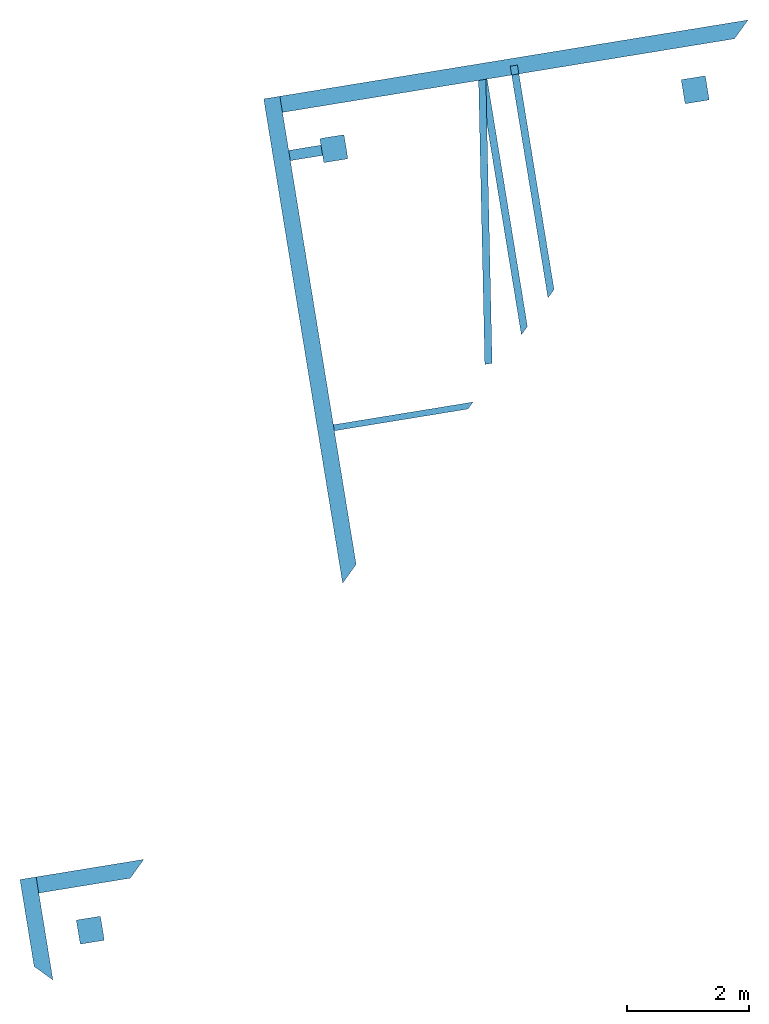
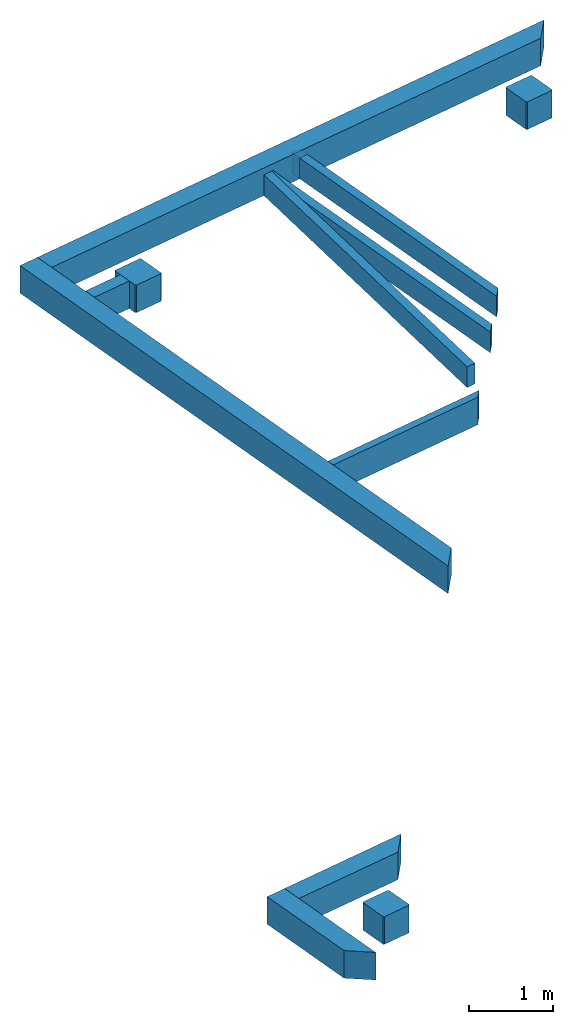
# One storey: 10 walls, 4 columns.
"""IFC2X3 building model written with IfcOpenShell, lengths in millimetres."""

from ifc_helpers import new_model, entity, si_unit, converted_unit, derived_unit, direction, frame, origin, origin_with_axes, place, context, subcontext, project, spatial, polyline, outline, extrude, faceted_brep, material, layer, layer_set, layer_usage, type_object, element, save


model = new_model("IFC2X3")

# Units and contexts
model_context = context("Model", 3, precision=0.01, world=origin(), true_north=direction((6.12323399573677e-17, 1.0)))
plan_context = context("Plan", 3, precision=1e-05, world=origin_with_axes())
body_context = subcontext(model_context, "Body", "Model", "MODEL_VIEW")
ifc_project = project(units=[converted_unit("PLANEANGLEUNIT", "DEGREE", entity("IfcPositiveLengthMeasure", 0.0174532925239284), si_unit("PLANEANGLEUNIT", "RADIAN"), dimensions=[0, 0, 0, 0, 0, 0, 0]), si_unit("AREAUNIT", "SQUARE_METRE"), si_unit("LENGTHUNIT", "METRE", prefix="MILLI"), si_unit("MASSUNIT", "GRAM", prefix="KILO"), si_unit("POWERUNIT", "WATT"), si_unit("PRESSUREUNIT", "PASCAL", prefix="KILO"), si_unit("FORCEUNIT", "NEWTON", prefix="KILO"), si_unit("ELECTRICVOLTAGEUNIT", "VOLT"), si_unit("ELECTRICCURRENTUNIT", "AMPERE"), si_unit("THERMODYNAMICTEMPERATUREUNIT", "DEGREE_CELSIUS"), si_unit("TIMEUNIT", "SECOND"), si_unit("VOLUMEUNIT", "CUBIC_METRE"), derived_unit("LINEARVELOCITYUNIT", [(si_unit("LENGTHUNIT", "METRE"), 1), (si_unit("TIMEUNIT", "SECOND"), -1)]), derived_unit("VOLUMETRICFLOWRATEUNIT", [(si_unit("VOLUMEUNIT", "CUBIC_METRE"), 1), (si_unit("TIMEUNIT", "SECOND"), -1)]), derived_unit("THERMALTRANSMITTANCEUNIT", [(si_unit("POWERUNIT", "WATT"), 1), (si_unit("THERMODYNAMICTEMPERATUREUNIT", "KELVIN"), -1), (si_unit("AREAUNIT", "SQUARE_METRE"), -1)]), derived_unit("SOUNDPRESSUREUNIT", [(si_unit("PRESSUREUNIT", "PASCAL"), 1)])], contexts=[model_context, plan_context])

# Site, building, storey
site_placement = place(None, frame((-305029.896016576, -232111.759730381, 0.0), z_axis=(0.0, 0.0, 1.0), x_axis=(-0.160806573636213, 0.986985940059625, 0.0)))
site = spatial("IfcSite", under=ifc_project, at=site_placement, Name="Default", CompositionType="ELEMENT")
building_placement = place(site_placement, frame((0.0, 0.0, 0.0), z_axis=(0.0, 0.0, 1.0), x_axis=(1.0, -2.77555756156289e-17, 0.0)))
building = spatial("IfcBuilding", under=site, at=building_placement, Name="br001-a-200-1-0001", CompositionType="ELEMENT")
storey_placement = place(building_placement, frame((0.0, 0.0, 59000.0), z_axis=(0.0, 0.0, 1.0), x_axis=(1.0, -2.77555756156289e-17, 0.0)))
storey = spatial("IfcBuildingStorey", under=building, at=storey_placement, Name="H03-Nivå G-5m", CompositionType="ELEMENT", Elevation=59000.0)

# Columns
ifc_material_1 = material(Name="_NSW Betong")
column_type_1 = type_object("IfcColumnType", Name="NSW Søyle - Betong rektangulær:400 x 400 mm", PredefinedType="COLUMN", material=ifc_material_1)
column_1_placement = place(storey_placement, frame((0.0, 0.0, -59000.0), z_axis=(0.0, 0.0, 1.0), x_axis=(1.0, -2.77555756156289e-17, 0.0)))
element("IfcColumn", 1, at=column_1_placement, inside=storey, type_object=column_type_1, Name="NSW Søyle - Betong rektangulær:400 x 400 mm", ObjectType="NSW Søyle - Betong rektangulær:400 x 400 mm", context=body_context, shape_type="Brep", body=[
    faceted_brep([(1184488.59858442, -692966.378367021, 59400.0), (1184868.59858442, -692966.378367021, 59400.0), (1184868.59858442, -692966.378367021, 59000.0), (1184488.59858442, -692966.378367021, 59000.0), (1184878.59858442, -692956.378367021, 59400.0), (1184878.59858442, -692956.378367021, 59000.0), (1184878.59858442, -692576.378367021, 59400.0), (1184878.59858442, -692576.378367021, 59000.0), (1184868.59858442, -692566.378367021, 59400.0), (1184868.59858442, -692566.378367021, 59000.0), (1184488.59858442, -692566.378367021, 59400.0), (1184488.59858442, -692566.378367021, 59000.0), (1184478.59858442, -692576.378367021, 59400.0), (1184478.59858442, -692576.378367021, 59000.0), (1184478.59858442, -692956.378367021, 59400.0), (1184478.59858442, -692956.378367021, 59000.0)], [[[0, 1, 2, 3]], [[1, 4, 5, 2]], [[4, 6, 7, 5]], [[6, 8, 9, 7]], [[8, 10, 11, 9]], [[10, 12, 13, 11]], [[12, 14, 15, 13]], [[14, 0, 3, 15]], [[3, 2, 5, 7, 9, 11, 13, 15]], [[14, 12, 10, 8, 6, 4, 1, 0]]], orient=[[False], [False], [False], [False], [False], [False], [False], [False], [False], [False]]),
])
column_type_2 = type_object("IfcColumnType", Name="NSW Søyle - Betong rektangulær:400 x 400 mm", PredefinedType="COLUMN", material=ifc_material_1)
column_2_placement = place(storey_placement, frame((0.0, 0.0, -59000.0), z_axis=(0.0, 0.0, 1.0), x_axis=(1.0, -2.77555756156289e-17, 0.0)))
element("IfcColumn", 2, at=column_2_placement, inside=storey, type_object=column_type_2, Name="NSW Søyle - Betong rektangulær:400 x 400 mm", ObjectType="NSW Søyle - Betong rektangulær:400 x 400 mm", context=body_context, shape_type="Brep", body=[
    faceted_brep([(1184488.59858442, -686966.378367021, 59400.0), (1184868.59858442, -686966.378367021, 59400.0), (1184868.59858442, -686966.378367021, 59000.0), (1184488.59858442, -686966.378367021, 59000.0), (1184878.59858442, -686956.378367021, 59400.0), (1184878.59858442, -686956.378367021, 59000.0), (1184878.59858442, -686576.378367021, 59400.0), (1184878.59858442, -686576.378367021, 59000.0), (1184868.59858442, -686566.378367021, 59400.0), (1184868.59858442, -686566.378367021, 59000.0), (1184488.59858442, -686566.378367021, 59400.0), (1184488.59858442, -686566.378367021, 59000.0), (1184478.59858442, -686576.378367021, 59400.0), (1184478.59858442, -686576.378367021, 59000.0), (1184478.59858442, -686956.378367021, 59400.0), (1184478.59858442, -686956.378367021, 59000.0)], [[[0, 1, 2, 3]], [[1, 4, 5, 2]], [[4, 6, 7, 5]], [[6, 8, 9, 7]], [[8, 10, 11, 9]], [[10, 12, 13, 11]], [[12, 14, 15, 13]], [[14, 0, 3, 15]], [[3, 2, 5, 7, 9, 11, 13, 15]], [[14, 12, 10, 8, 6, 4, 1, 0]]], orient=[[False], [False], [False], [False], [False], [False], [False], [False], [False], [False]]),
])
column_type_3 = type_object("IfcColumnType", Name="NSW Søyle - Betong rektangulær:400 x 400 mm", PredefinedType="COLUMN", material=ifc_material_1)
column_3_placement = place(storey_placement, frame((0.0, 0.0, -59000.0), z_axis=(0.0, 0.0, 1.0), x_axis=(1.0, -2.77555756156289e-17, 0.0)))
element("IfcColumn", 3, at=column_3_placement, inside=storey, type_object=column_type_3, Name="NSW Søyle - Betong rektangulær:400 x 400 mm", ObjectType="NSW Søyle - Betong rektangulær:400 x 400 mm", context=body_context, shape_type="Brep", body=[
    faceted_brep([(1172488.59858442, -680966.378367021, 59400.0), (1172868.59858442, -680966.378367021, 59400.0), (1172868.59858442, -680966.378367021, 59000.0), (1172488.59858442, -680966.378367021, 59000.0), (1172878.59858442, -680956.378367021, 59400.0), (1172878.59858442, -680956.378367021, 59000.0), (1172878.59858442, -680576.378367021, 59400.0), (1172878.59858442, -680576.378367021, 59000.0), (1172868.59858442, -680566.378367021, 59400.0), (1172868.59858442, -680566.378367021, 59000.0), (1172488.59858442, -680566.378367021, 59400.0), (1172488.59858442, -680566.378367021, 59000.0), (1172478.59858442, -680576.378367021, 59400.0), (1172478.59858442, -680576.378367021, 59000.0), (1172478.59858442, -680956.378367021, 59400.0), (1172478.59858442, -680956.378367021, 59000.0)], [[[0, 1, 2, 3]], [[1, 4, 5, 2]], [[4, 6, 7, 5]], [[6, 8, 9, 7]], [[8, 10, 11, 9]], [[10, 12, 13, 11]], [[12, 14, 15, 13]], [[14, 0, 3, 15]], [[3, 2, 5, 7, 9, 11, 13, 15]], [[14, 12, 10, 8, 6, 4, 1, 0]]], orient=[[False], [False], [False], [False], [False], [False], [False], [False], [False], [False]]),
])
column_type_4 = type_object("IfcColumnType", Name="NSW Søyle - Betong rektangulær:400 x 400 mm", PredefinedType="COLUMN", material=ifc_material_1)
column_4_placement = place(storey_placement, frame((0.0, 0.0, -59000.0), z_axis=(0.0, 0.0, 1.0), x_axis=(1.0, -2.77555756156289e-17, 0.0)))
element("IfcColumn", 4, at=column_4_placement, inside=storey, type_object=column_type_4, Name="NSW Søyle - Betong rektangulær:400 x 400 mm", ObjectType="NSW Søyle - Betong rektangulær:400 x 400 mm", context=body_context, shape_type="Brep", body=[
    faceted_brep([(1172488.60148732, -680966.381197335, 59400.0), (1172868.60148731, -680966.378439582, 59400.0), (1172868.60148731, -680966.378439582, 59000.0), (1172488.60148732, -680966.381197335, 59000.0), (1172878.60141474, -680956.37836701, 59400.0), (1172878.60141474, -680956.37836701, 59000.0), (1172878.59865699, -680576.37836702, 59400.0), (1172878.59865699, -680576.37836702, 59000.0), (1172868.59858442, -680566.378439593, 59400.0), (1172868.59858442, -680566.378439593, 59000.0), (1172488.59858443, -680566.381197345, 59400.0), (1172488.59858443, -680566.381197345, 59000.0), (1172478.598657, -680576.381269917, 59400.0), (1172478.598657, -680576.381269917, 59000.0), (1172478.60141475, -680956.381269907, 59400.0), (1172478.60141475, -680956.381269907, 59000.0)], [[[0, 1, 2, 3]], [[1, 4, 5, 2]], [[4, 6, 7, 5]], [[6, 8, 9, 7]], [[8, 10, 11, 9]], [[10, 12, 13, 11]], [[12, 14, 15, 13]], [[14, 0, 3, 15]], [[3, 2, 5, 7, 9, 11, 13, 15]], [[14, 12, 10, 8, 6, 4, 1, 0]]], orient=[[False], [False], [False], [False], [False], [False], [False], [False], [False], [False]]),
])

# Walls
ifc_material_2 = material(Name="_NSW Standard")
ifc_layer_1 = layer(ifc_material_2, 120.0)
ifc_layer_set_1 = layer_set([ifc_layer_1], Name="Basic Wall:A242 - Standard 120")
ifc_layer_usage = layer_usage(ifc_layer_set_1, "AXIS2", "NEGATIVE", 60.0)
wall_type_1 = type_object("IfcWallType", Name="Basic Wall:A242 - Standard 120", PredefinedType="STANDARD", material=ifc_layer_set_1)
wall_1_placement = place(storey_placement, frame((1185409.03413417, -689348.763862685, 0.0), z_axis=(0.0, 0.0, 1.0), x_axis=(-0.990268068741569, 0.139173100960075, 0.0)))
element("IfcWallStandardCase", 5, at=wall_1_placement, inside=storey, type_object=wall_type_1, material=ifc_layer_usage, Name="Basic Wall:A242 - Standard 120", ObjectType="Basic Wall:A242 - Standard 120", context=body_context, shape_type="SweptSolid", body=[
    extrude(outline(polyline([(4672.25601012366, -60.0), (4655.39110995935, 60.0), (4534.21180125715, 60.0), (717.103945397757, 60.0), (0.0, 60.0), (16.8649001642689, -60.0), (4672.25601012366, -60.0)])), origin(), (0.0, 0.0, 1.0), 300.000000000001),
])
wall_2_placement = place(storey_placement, frame((1185548.59858442, -689896.378367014, 0.0), z_axis=(0.0, 0.0, 1.0), x_axis=(-1.0, 2.77555756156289e-17, 0.0)))
element("IfcWall", 6, at=wall_2_placement, inside=storey, type_object=wall_type_1, Name="Basic Wall:A242 - Standard 120", ObjectType="Basic Wall:A242 - Standard 120", context=body_context, shape_type="Brep", body=[
    faceted_brep([(3848.09611007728, -60.0, 300.000000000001), (3848.09611007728, -60.0, 0.0), (0.0, -60.0, 0.0), (0.0, -60.0, 300.000000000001), (3728.09611007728, 60.0, 0.0), (3728.09611007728, 60.0, 300.000000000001), (0.0, 60.0, 300.000000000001), (0.0, 60.0, 0.0)], [[[0, 1, 2, 3]], [[4, 5, 6, 7]], [[7, 6, 3, 2]], [[1, 4, 7, 2]], [[5, 0, 3, 6]], [[5, 4, 1, 0]]], orient=[[False], [False], [False], [False], [False], [False]]),
])
wall_3_placement = place(storey_placement, frame((1177256.35259909, -689896.378367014, 0.0), z_axis=(0.0, 0.0, 1.0), x_axis=(1.0, -2.77555756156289e-17, 0.0)))
element("IfcWall", 7, at=wall_3_placement, inside=storey, type_object=wall_type_1, Name="Basic Wall:A242 - Standard 120", ObjectType="Basic Wall:A242 - Standard 120", context=body_context, shape_type="Brep", body=[
    faceted_brep([(4564.14987525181, -60.0, 0.0), (4564.14987525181, -60.0, 300.000000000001), (8144.33114902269, -60.0, 300.000000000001), (8144.33114902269, -60.0, 0.0), (8144.33114902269, 60.0, 300.000000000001), (8144.33114902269, 60.0, 0.0), (4444.14987525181, 60.0, 300.000000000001), (4444.14987525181, 60.0, 0.0)], [[[0, 1, 2, 3]], [[3, 2, 4, 5]], [[6, 7, 5, 4]], [[7, 0, 3, 5]], [[1, 6, 4, 2]], [[7, 6, 1, 0]]], orient=[[False], [False], [False], [False], [False], [False]]),
])
wall_4_placement = place(storey_placement, frame((1177250.72538495, -689368.378367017, 0.0), z_axis=(0.0, 0.0, 1.0), x_axis=(1.0, -2.77555756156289e-17, 0.0)))
element("IfcWall", 8, at=wall_4_placement, inside=storey, type_object=wall_type_1, Name="Basic Wall:A242 - Standard 120", ObjectType="Basic Wall:A242 - Standard 120", context=body_context, shape_type="Brep", body=[
    faceted_brep([(4041.7770893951, -60.0, 0.0), (4041.7770893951, -60.0, 300.000000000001), (8149.95836316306, -60.0, 300.000000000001), (8149.95836316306, -60.0, 0.0), (8149.95836316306, -39.8015797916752, 300.000000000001), (8149.95836316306, -39.8015797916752, 0.0), (7439.83322406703, 60.0, 300.000000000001), (7439.83322406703, 60.0, 0.0), (3921.7770893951, 60.0, 300.000000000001), (3921.7770893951, 60.0, 0.0)], [[[0, 1, 2, 3]], [[3, 2, 4, 5]], [[5, 4, 6, 7]], [[8, 9, 7, 6]], [[9, 0, 3, 5, 7]], [[1, 8, 6, 4, 2]], [[9, 8, 1, 0]]], orient=[[False], [False], [False], [False], [False], [False], [False]]),
])
ifc_material_3 = material(Name="Flesland - Finishes - Exterior - Metal Panel")
ifc_layer_2 = layer(ifc_material_3, 268.0)
ifc_layer_set_2 = layer_set([ifc_layer_2], Name="Basic Wall:NSW Utvendig - Standard 268 Panels")
wall_type_2 = type_object("IfcWallType", Name="Basic Wall:NSW Utvendig - Standard 268 Panels", PredefinedType="STANDARD", material=ifc_layer_set_2)
wall_5_placement = place(storey_placement, frame((1173548.59858442, -680030.378366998, 0.0), z_axis=(0.0, 0.0, 1.0), x_axis=(-2.77555756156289e-17, -1.0, 0.0)))
element("IfcWall", 9, at=wall_5_placement, inside=storey, type_object=wall_type_2, Name="Basic Wall:NSW Utvendig - Standard 268 Panels", ObjectType="Basic Wall:NSW Utvendig - Standard 268 Panels", context=body_context, shape_type="Brep", body=[
    faceted_brep([(1788.0961100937, 133.999999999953, 0.0), (1788.0961100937, 133.999999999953, 400.0), (0.0, 133.999999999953, 400.0), (0.0, 133.999999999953, 0.0), (0.0, -134.000000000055, 400.0), (0.0, -134.000000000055, 0.0), (1520.0961100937, -134.000000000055, 400.0), (1520.0961100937, -134.000000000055, 0.0)], [[[0, 1, 2, 3]], [[2, 4, 5, 3]], [[4, 6, 7, 5]], [[7, 0, 3, 5]], [[1, 0, 7, 6]], [[6, 4, 2, 1]]], orient=[[False], [False], [False], [False], [False], [False]]),
])
wall_6_placement = place(storey_placement, frame((1173682.59858442, -685896.378367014, 0.0), z_axis=(0.0, 0.0, 1.0), x_axis=(1.0, -2.77555756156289e-17, 0.0)))
element("IfcWall", 10, at=wall_6_placement, inside=storey, type_object=wall_type_2, Name="Basic Wall:NSW Utvendig - Standard 268 Panels", ObjectType="Basic Wall:NSW Utvendig - Standard 268 Panels", context=body_context, shape_type="Brep", body=[
    faceted_brep([(11986.0851636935, -134.000000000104, 400.0), (11986.0851636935, 133.999999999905, 400.0), (11986.0851636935, 133.999999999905, 0.0), (11986.0851636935, -134.000000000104, 0.0), (3943.90388992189, 133.999999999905, 400.0), (3943.90388992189, 133.999999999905, 0.0), (4211.90388992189, -134.000000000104, 0.0), (4211.90388992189, -134.000000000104, 400.0)], [[[0, 1, 2, 3]], [[1, 4, 5, 2]], [[6, 7, 0, 3]], [[5, 6, 3, 2]], [[7, 6, 5, 4]], [[4, 1, 0, 7]]], orient=[[False], [False], [False], [False], [False], [False]]),
])
wall_7_placement = place(storey_placement, frame((1185534.68374811, -686030.378367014, 0.0), z_axis=(0.0, 0.0, 1.0), x_axis=(-2.77555756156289e-17, -1.0, 0.0)))
element("IfcWall", 11, at=wall_7_placement, inside=storey, type_object=wall_type_2, Name="Basic Wall:NSW Utvendig - Standard 268 Panels", ObjectType="Basic Wall:NSW Utvendig - Standard 268 Panels", context=body_context, shape_type="Brep", body=[
    faceted_brep([(7774.18127377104, 133.999999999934, 0.0), (7774.18127377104, 133.999999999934, 400.0), (0.0, 133.999999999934, 400.0), (0.0, 133.999999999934, 0.0), (0.0, -134.000000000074, 400.0), (0.0, -134.000000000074, 0.0), (7506.18127377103, -134.000000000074, 400.0), (7506.18127377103, -134.000000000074, 0.0)], [[[0, 1, 2, 3]], [[2, 4, 5, 3]], [[4, 6, 7, 5]], [[7, 0, 3, 5]], [[1, 0, 7, 6]], [[6, 4, 2, 1]]], orient=[[False], [False], [False], [False], [False], [False]]),
])
wall_8_placement = place(storey_placement, frame((1163678.59858442, -679896.378366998, 0.0), z_axis=(0.0, 0.0, 1.0), x_axis=(1.0, -2.77555756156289e-17, 0.0)))
element("IfcWall", 12, at=wall_8_placement, inside=storey, type_object=wall_type_2, Name="Basic Wall:NSW Utvendig - Standard 268 Panels", ObjectType="Basic Wall:NSW Utvendig - Standard 268 Panels", context=body_context, shape_type="Brep", body=[
    faceted_brep([(10004.000000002, -134.00000000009, 400.0), (10004.000000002, 133.999999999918, 400.0), (10004.000000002, 133.999999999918, 0.0), (10004.000000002, -134.00000000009, 0.0), (8560.70534583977, 133.999999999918, 400.0), (8560.70534583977, 133.999999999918, 0.0), (8292.70534583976, -134.00000000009, 0.0), (8292.70534583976, -134.00000000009, 400.0)], [[[0, 1, 2, 3]], [[1, 4, 5, 2]], [[6, 7, 0, 3]], [[5, 6, 3, 2]], [[7, 6, 5, 4]], [[4, 1, 0, 7]]], orient=[[False], [False], [False], [False], [False], [False]]),
])
ifc_layer_3 = layer(ifc_material_2, 100.0)
ifc_layer_set_3 = layer_set([ifc_layer_3], Name="Basic Wall:A242 - Standard 100")
wall_type_3 = type_object("IfcWallType", Name="Basic Wall:A242 - Standard 100", PredefinedType="STANDARD", material=ifc_layer_set_3)
wall_9_placement = place(storey_placement, frame((1180163.59858442, -686030.378367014, 0.0), z_axis=(0.0, 0.0, 1.0), x_axis=(-2.77555756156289e-17, -1.0, 0.0)))
element("IfcWall", 13, at=wall_9_placement, inside=storey, type_object=wall_type_3, Name="Basic Wall:A242 - Standard 100", ObjectType="Basic Wall:A242 - Standard 100", context=body_context, shape_type="Brep", body=[
    faceted_brep([(2319.09611007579, 50.0000000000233, 0.0), (2319.09611007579, 50.0000000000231, 400.0), (0.0, 50.0000000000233, 400.0), (0.0, 50.0000000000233, 0.0), (0.0, -50.0000000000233, 400.0), (0.0, -50.0000000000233, 0.0), (2219.09611007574, -50.0000000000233, 400.0), (2219.09611007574, -50.0000000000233, 0.0)], [[[0, 1, 2, 3]], [[2, 4, 5, 3]], [[4, 6, 7, 5]], [[7, 0, 3, 5]], [[1, 0, 7, 6]], [[6, 4, 2, 1]]], orient=[[False], [False], [False], [False], [False], [False]]),
])
ifc_layer_4 = layer(ifc_material_2, 170.0)
ifc_layer_set_4 = layer_set([ifc_layer_4], Name="Basic Wall:A242 - Standard 170")
wall_type_4 = type_object("IfcWallType", Name="Basic Wall:A242 - Standard 170", PredefinedType="STANDARD", material=ifc_layer_set_4)
wall_10_placement = place(storey_placement, frame((1184684.59858442, -686030.378367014, 0.0), z_axis=(0.0, 0.0, 1.0), x_axis=(-2.77555756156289e-17, -1.0, 0.0)))
element("IfcWall", 14, at=wall_10_placement, inside=storey, type_object=wall_type_4, Name="Basic Wall:A242 - Standard 170", ObjectType="Basic Wall:A242 - Standard 170", context=body_context, shape_type="Brep", body=[
    faceted_brep([(536.000000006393, -85.0000000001, 400.0), (536.000000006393, 85.0000000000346, 400.0), (536.000000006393, 85.0000000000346, 0.0), (536.000000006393, -85.0000000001, 0.0), (0.0, 85.0000000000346, 400.0), (0.0, 85.0000000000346, 0.0), (0.0, -85.0000000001, 400.0), (0.0, -85.0000000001, 0.0)], [[[0, 1, 2, 3]], [[1, 4, 5, 2]], [[4, 6, 7, 5]], [[6, 0, 3, 7]], [[3, 2, 5, 7]], [[6, 4, 1, 0]]], orient=[[False], [False], [False], [False], [False], [False]]),
])

save(model, "model.ifc")
